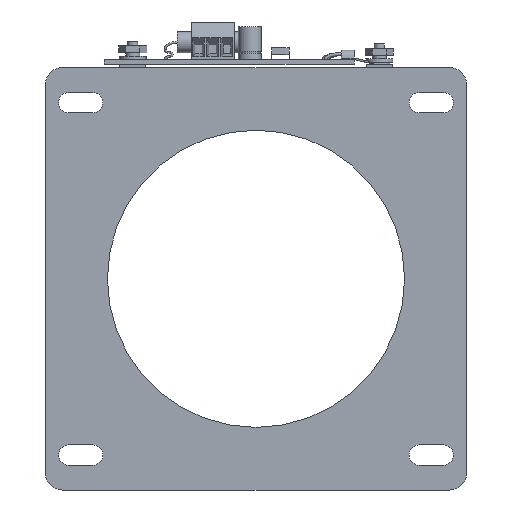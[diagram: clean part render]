
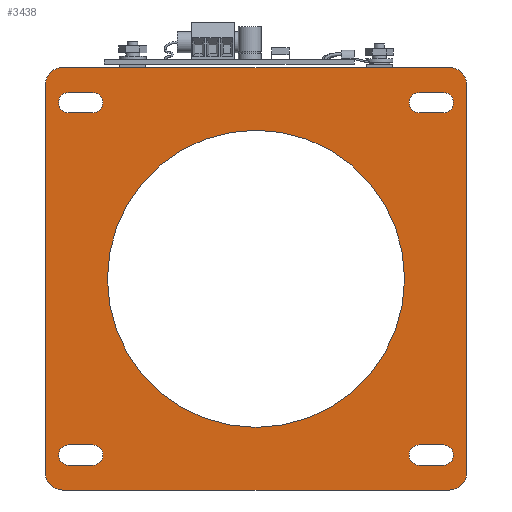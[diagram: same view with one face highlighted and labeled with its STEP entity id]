
A CAD part, front view. The second image highlights one B-rep face of the part: STEP entity #3438.
In plain terms, the highlighted planar face has unit normal (0, -1, 0).
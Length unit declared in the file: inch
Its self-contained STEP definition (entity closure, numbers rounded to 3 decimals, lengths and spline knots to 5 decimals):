
#92=LINE($,#6999,#383);
#96=LINE($,#7011,#387);
#100=LINE($,#7023,#391);
#104=LINE($,#7035,#395);
#108=LINE($,#7047,#399);
#112=LINE($,#7059,#403);
#116=LINE($,#7071,#407);
#120=LINE($,#7083,#411);
#124=LINE($,#7104,#415);
#127=LINE($,#7110,#418);
#128=LINE($,#7114,#419);
#129=LINE($,#7118,#420);
#383=VECTOR($,#4215,0.345);
#387=VECTOR($,#4227,0.345);
#391=VECTOR($,#4239,0.345);
#395=VECTOR($,#4251,0.345);
#399=VECTOR($,#4263,0.345);
#403=VECTOR($,#4275,0.345);
#407=VECTOR($,#4287,0.345);
#411=VECTOR($,#4299,0.345);
#415=VECTOR($,#4323,5.5275);
#418=VECTOR($,#4328,5.54);
#419=VECTOR($,#4331,5.5275);
#420=VECTOR($,#4334,5.54);
#820=PLANE($,#3736);
#918=FACE_BOUND($,#1277,.T.);
#919=FACE_BOUND($,#1278,.T.);
#920=FACE_BOUND($,#1279,.T.);
#921=FACE_BOUND($,#1280,.T.);
#922=FACE_BOUND($,#1281,.T.);
#1053=FACE_OUTER_BOUND($,#1276,.T.);
#1276=EDGE_LOOP($,(#2834,#2835,#2836,#2837,#2838,#2839,#2840,#2841));
#1277=EDGE_LOOP($,(#2842,#2843,#2844,#2845));
#1278=EDGE_LOOP($,(#2846,#2847,#2848,#2849));
#1279=EDGE_LOOP($,(#2850,#2851,#2852,#2853));
#1280=EDGE_LOOP($,(#2854,#2855,#2856,#2857));
#1281=EDGE_LOOP($,(#2858));
#1440=CIRCLE($,#3700,0.145);
#1442=CIRCLE($,#3704,0.145);
#1444=CIRCLE($,#3708,0.145);
#1446=CIRCLE($,#3712,0.145);
#1448=CIRCLE($,#3716,0.145);
#1450=CIRCLE($,#3720,0.145);
#1452=CIRCLE($,#3724,0.145);
#1454=CIRCLE($,#3728,0.145);
#1456=CIRCLE($,#3731,2.125);
#1458=CIRCLE($,#3734,0.25);
#1459=CIRCLE($,#3737,0.25);
#1460=CIRCLE($,#3738,0.25);
#1461=CIRCLE($,#3739,0.25);
#1646=VERTEX_POINT($,#6996);
#1647=VERTEX_POINT($,#6998);
#1649=VERTEX_POINT($,#7004);
#1651=VERTEX_POINT($,#7010);
#1654=VERTEX_POINT($,#7020);
#1655=VERTEX_POINT($,#7022);
#1657=VERTEX_POINT($,#7028);
#1659=VERTEX_POINT($,#7034);
#1662=VERTEX_POINT($,#7044);
#1663=VERTEX_POINT($,#7046);
#1665=VERTEX_POINT($,#7052);
#1667=VERTEX_POINT($,#7058);
#1670=VERTEX_POINT($,#7068);
#1671=VERTEX_POINT($,#7070);
#1673=VERTEX_POINT($,#7076);
#1675=VERTEX_POINT($,#7082);
#1677=VERTEX_POINT($,#7091);
#1680=VERTEX_POINT($,#7097);
#1681=VERTEX_POINT($,#7099);
#1682=VERTEX_POINT($,#7103);
#1684=VERTEX_POINT($,#7109);
#1685=VERTEX_POINT($,#7111);
#1686=VERTEX_POINT($,#7113);
#1687=VERTEX_POINT($,#7115);
#1688=VERTEX_POINT($,#7117);
#2049=EDGE_CURVE($,#1647,#1646,#92,.T.);
#2052=EDGE_CURVE($,#1649,#1647,#1440,.T.);
#2055=EDGE_CURVE($,#1651,#1649,#96,.T.);
#2058=EDGE_CURVE($,#1646,#1651,#1442,.T.);
#2061=EDGE_CURVE($,#1655,#1654,#100,.T.);
#2064=EDGE_CURVE($,#1657,#1655,#1444,.T.);
#2067=EDGE_CURVE($,#1659,#1657,#104,.T.);
#2070=EDGE_CURVE($,#1654,#1659,#1446,.T.);
#2073=EDGE_CURVE($,#1663,#1662,#108,.T.);
#2076=EDGE_CURVE($,#1665,#1663,#1448,.T.);
#2079=EDGE_CURVE($,#1667,#1665,#112,.T.);
#2082=EDGE_CURVE($,#1662,#1667,#1450,.T.);
#2085=EDGE_CURVE($,#1671,#1670,#116,.T.);
#2088=EDGE_CURVE($,#1673,#1671,#1452,.T.);
#2091=EDGE_CURVE($,#1675,#1673,#120,.T.);
#2094=EDGE_CURVE($,#1670,#1675,#1454,.T.);
#2096=EDGE_CURVE($,#1677,#1677,#1456,.T.);
#2099=EDGE_CURVE($,#1680,#1681,#1458,.T.);
#2101=EDGE_CURVE($,#1682,#1681,#124,.T.);
#2104=EDGE_CURVE($,#1684,#1680,#127,.T.);
#2105=EDGE_CURVE($,#1685,#1684,#1459,.T.);
#2106=EDGE_CURVE($,#1685,#1686,#128,.T.);
#2107=EDGE_CURVE($,#1687,#1686,#1460,.T.);
#2108=EDGE_CURVE($,#1687,#1688,#129,.T.);
#2109=EDGE_CURVE($,#1682,#1688,#1461,.T.);
#2834=ORIENTED_EDGE($,*,*,#2099,.F.);
#2835=ORIENTED_EDGE($,*,*,#2104,.F.);
#2836=ORIENTED_EDGE($,*,*,#2105,.F.);
#2837=ORIENTED_EDGE($,*,*,#2106,.T.);
#2838=ORIENTED_EDGE($,*,*,#2107,.F.);
#2839=ORIENTED_EDGE($,*,*,#2108,.T.);
#2840=ORIENTED_EDGE($,*,*,#2109,.F.);
#2841=ORIENTED_EDGE($,*,*,#2101,.T.);
#2842=ORIENTED_EDGE($,*,*,#2055,.T.);
#2843=ORIENTED_EDGE($,*,*,#2052,.T.);
#2844=ORIENTED_EDGE($,*,*,#2049,.T.);
#2845=ORIENTED_EDGE($,*,*,#2058,.T.);
#2846=ORIENTED_EDGE($,*,*,#2067,.T.);
#2847=ORIENTED_EDGE($,*,*,#2064,.T.);
#2848=ORIENTED_EDGE($,*,*,#2061,.T.);
#2849=ORIENTED_EDGE($,*,*,#2070,.T.);
#2850=ORIENTED_EDGE($,*,*,#2079,.T.);
#2851=ORIENTED_EDGE($,*,*,#2076,.T.);
#2852=ORIENTED_EDGE($,*,*,#2073,.T.);
#2853=ORIENTED_EDGE($,*,*,#2082,.T.);
#2854=ORIENTED_EDGE($,*,*,#2091,.T.);
#2855=ORIENTED_EDGE($,*,*,#2088,.T.);
#2856=ORIENTED_EDGE($,*,*,#2085,.T.);
#2857=ORIENTED_EDGE($,*,*,#2094,.T.);
#2858=ORIENTED_EDGE($,*,*,#2096,.T.);
#3438=ADVANCED_FACE($,(#1053,#918,#919,#920,#921,#922),#820,.T.);
#3700=AXIS2_PLACEMENT_3D($,#7005,#4221,#4222);
#3704=AXIS2_PLACEMENT_3D($,#7015,#4233,#4234);
#3708=AXIS2_PLACEMENT_3D($,#7029,#4245,#4246);
#3712=AXIS2_PLACEMENT_3D($,#7039,#4257,#4258);
#3716=AXIS2_PLACEMENT_3D($,#7053,#4269,#4270);
#3720=AXIS2_PLACEMENT_3D($,#7063,#4281,#4282);
#3724=AXIS2_PLACEMENT_3D($,#7077,#4293,#4294);
#3728=AXIS2_PLACEMENT_3D($,#7087,#4305,#4306);
#3731=AXIS2_PLACEMENT_3D($,#7092,#4311,#4312);
#3734=AXIS2_PLACEMENT_3D($,#7100,#4318,#4319);
#3736=AXIS2_PLACEMENT_3D($,#7108,#4326,#4327);
#3737=AXIS2_PLACEMENT_3D($,#7112,#4329,#4330);
#3738=AXIS2_PLACEMENT_3D($,#7116,#4332,#4333);
#3739=AXIS2_PLACEMENT_3D($,#7119,#4335,#4336);
#4215=DIRECTION($,(-1.,0.,0.));
#4221=DIRECTION('center_axis',(0.,1.,0.));
#4222=DIRECTION('ref_axis',(0.,0.,-1.));
#4227=DIRECTION($,(1.,0.,0.));
#4233=DIRECTION('center_axis',(0.,1.,0.));
#4234=DIRECTION('ref_axis',(0.,0.,1.));
#4239=DIRECTION($,(1.,0.,0.));
#4245=DIRECTION('center_axis',(0.,1.,0.));
#4246=DIRECTION('ref_axis',(0.,0.,1.));
#4251=DIRECTION($,(-1.,0.,0.));
#4257=DIRECTION('center_axis',(0.,1.,0.));
#4258=DIRECTION('ref_axis',(0.,0.,-1.));
#4263=DIRECTION($,(-1.,0.,0.));
#4269=DIRECTION('center_axis',(0.,1.,0.));
#4270=DIRECTION('ref_axis',(0.,0.,-1.));
#4275=DIRECTION($,(1.,0.,0.));
#4281=DIRECTION('center_axis',(0.,1.,0.));
#4282=DIRECTION('ref_axis',(0.,0.,1.));
#4287=DIRECTION($,(1.,0.,0.));
#4293=DIRECTION('center_axis',(0.,1.,0.));
#4294=DIRECTION('ref_axis',(0.,0.,1.));
#4299=DIRECTION($,(-1.,0.,0.));
#4305=DIRECTION('center_axis',(0.,1.,0.));
#4306=DIRECTION('ref_axis',(0.,0.,-1.));
#4311=DIRECTION('center_axis',(0.,1.,0.));
#4312=DIRECTION('ref_axis',(-1.,0.,0.));
#4318=DIRECTION('center_axis',(0.,1.,0.));
#4319=DIRECTION('ref_axis',(0.,0.,-1.));
#4323=DIRECTION($,(1.,0.,0.));
#4326=DIRECTION('center_axis',(0.,-1.,0.));
#4327=DIRECTION('ref_axis',(0.,0.,-1.));
#4328=DIRECTION($,(0.,0.,-1.));
#4329=DIRECTION('center_axis',(0.,1.,0.));
#4330=DIRECTION('ref_axis',(1.,0.,0.));
#4331=DIRECTION($,(-1.,0.,0.));
#4332=DIRECTION('center_axis',(0.,1.,0.));
#4333=DIRECTION('ref_axis',(0.,0.,1.));
#4334=DIRECTION($,(0.,0.,-1.));
#4335=DIRECTION('center_axis',(0.,1.,0.));
#4336=DIRECTION('ref_axis',(-1.,0.,0.));
#6996=CARTESIAN_POINT('',(21.93635,33.12001,5.395));
#6998=CARTESIAN_POINT('',(22.28135,33.12001,5.395));
#6999=CARTESIAN_POINT($,(22.28135,33.12001,5.395));
#7004=CARTESIAN_POINT('',(22.28135,33.12001,5.685));
#7005=CARTESIAN_POINT('Origin',(22.28135,33.12001,5.54));
#7010=CARTESIAN_POINT('',(21.93635,33.12001,5.685));
#7011=CARTESIAN_POINT($,(21.93635,33.12001,5.685));
#7015=CARTESIAN_POINT('Origin',(21.93635,33.12001,5.54));
#7020=CARTESIAN_POINT('',(17.26885,33.12001,0.645));
#7022=CARTESIAN_POINT('',(16.92385,33.12001,0.645));
#7023=CARTESIAN_POINT($,(16.92385,33.12001,0.645));
#7028=CARTESIAN_POINT('',(16.92385,33.12001,0.355));
#7029=CARTESIAN_POINT('Origin',(16.92385,33.12001,0.5));
#7034=CARTESIAN_POINT('',(17.26885,33.12001,0.355));
#7035=CARTESIAN_POINT($,(17.26885,33.12001,0.355));
#7039=CARTESIAN_POINT('Origin',(17.26885,33.12001,0.5));
#7044=CARTESIAN_POINT('',(21.93635,33.12001,0.355));
#7046=CARTESIAN_POINT('',(22.28135,33.12001,0.355));
#7047=CARTESIAN_POINT($,(22.28135,33.12001,0.355));
#7052=CARTESIAN_POINT('',(22.28135,33.12001,0.645));
#7053=CARTESIAN_POINT('Origin',(22.28135,33.12001,0.5));
#7058=CARTESIAN_POINT('',(21.93635,33.12001,0.645));
#7059=CARTESIAN_POINT($,(21.93635,33.12001,0.645));
#7063=CARTESIAN_POINT('Origin',(21.93635,33.12001,0.5));
#7068=CARTESIAN_POINT('',(17.26885,33.12001,5.685));
#7070=CARTESIAN_POINT('',(16.92385,33.12001,5.685));
#7071=CARTESIAN_POINT($,(16.92385,33.12001,5.685));
#7076=CARTESIAN_POINT('',(16.92385,33.12001,5.395));
#7077=CARTESIAN_POINT('Origin',(16.92385,33.12001,5.54));
#7082=CARTESIAN_POINT('',(17.26885,33.12001,5.395));
#7083=CARTESIAN_POINT($,(17.26885,33.12001,5.395));
#7087=CARTESIAN_POINT('Origin',(17.26885,33.12001,5.54));
#7091=CARTESIAN_POINT('',(21.7276,33.12001,3.02));
#7092=CARTESIAN_POINT('Origin',(19.6026,33.12001,3.02));
#7097=CARTESIAN_POINT('',(22.61635,33.12001,0.25));
#7099=CARTESIAN_POINT('',(22.36635,33.12001,0.));
#7100=CARTESIAN_POINT('Origin',(22.36635,33.12001,0.25));
#7103=CARTESIAN_POINT('',(16.83885,33.12001,0.));
#7104=CARTESIAN_POINT($,(16.83885,33.12001,0.));
#7108=CARTESIAN_POINT('Origin',(16.58885,33.12001,3.02));
#7109=CARTESIAN_POINT('',(22.61635,33.12001,5.79));
#7110=CARTESIAN_POINT($,(22.61635,33.12001,5.79));
#7111=CARTESIAN_POINT('',(22.36635,33.12001,6.04));
#7112=CARTESIAN_POINT('Origin',(22.36635,33.12001,5.79));
#7113=CARTESIAN_POINT('',(16.83885,33.12001,6.04));
#7114=CARTESIAN_POINT($,(22.36635,33.12001,6.04));
#7115=CARTESIAN_POINT('',(16.58885,33.12001,5.79));
#7116=CARTESIAN_POINT('Origin',(16.83885,33.12001,5.79));
#7117=CARTESIAN_POINT('',(16.58885,33.12001,0.25));
#7118=CARTESIAN_POINT($,(16.58885,33.12001,5.79));
#7119=CARTESIAN_POINT('Origin',(16.83885,33.12001,0.25));
